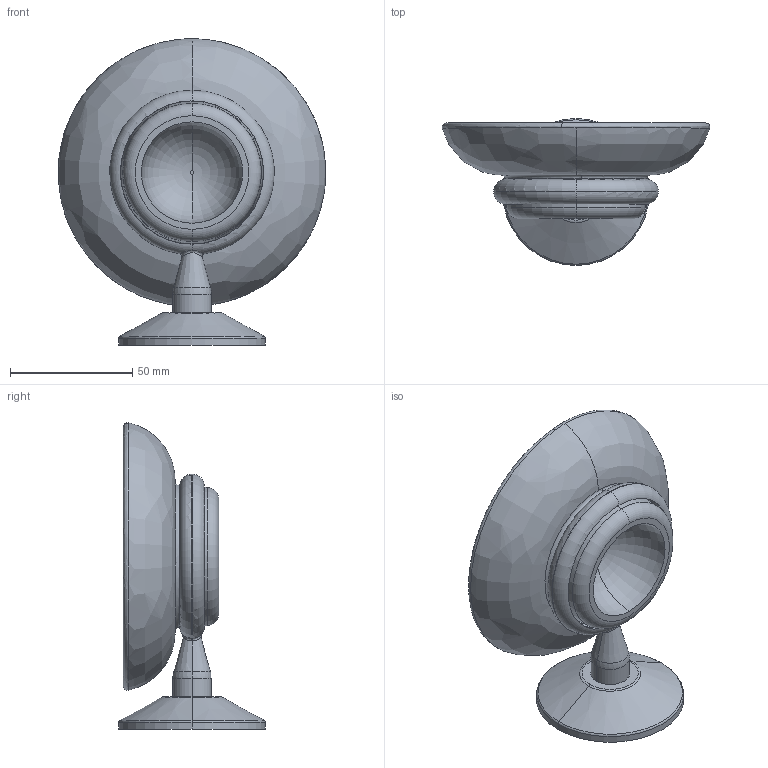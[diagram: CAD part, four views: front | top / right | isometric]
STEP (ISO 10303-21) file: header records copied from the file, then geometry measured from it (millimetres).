
FILE_DESCRIPTION (( 'STEP AP203' ), '1' );
FILE_NAME ('BJ11022.STEP', '2016-08-15T08:17:53', ( '' ), ( '' ), 'SwSTEP 2.0', 'SolidWorks 2016', '' );
FILE_SCHEMA (( 'CONFIG_CONTROL_DESIGN' ));
Length unit declared in the file: millimetre
Products named in the file (1): BJ11022
Bounding box: 109.38 x 60.1 x 125.33 mm (x, y, z)
Volume: 91674 mm3; surface area: 42052 mm2
Topology: 3 solids, 3 shells, 82 faces, 189 edges, 114 vertices
Faces by surface type: torus 24, bspline 24, cylinder 17, plane 9, cone 8
Entity records: 9961 total; most frequent: CARTESIAN_POINT 8163, ORIENTED_EDGE 378, DIRECTION 339, EDGE_CURVE 189, AXIS2_PLACEMENT_3D 157, VERTEX_POINT 114, CIRCLE 98, EDGE_LOOP 87
